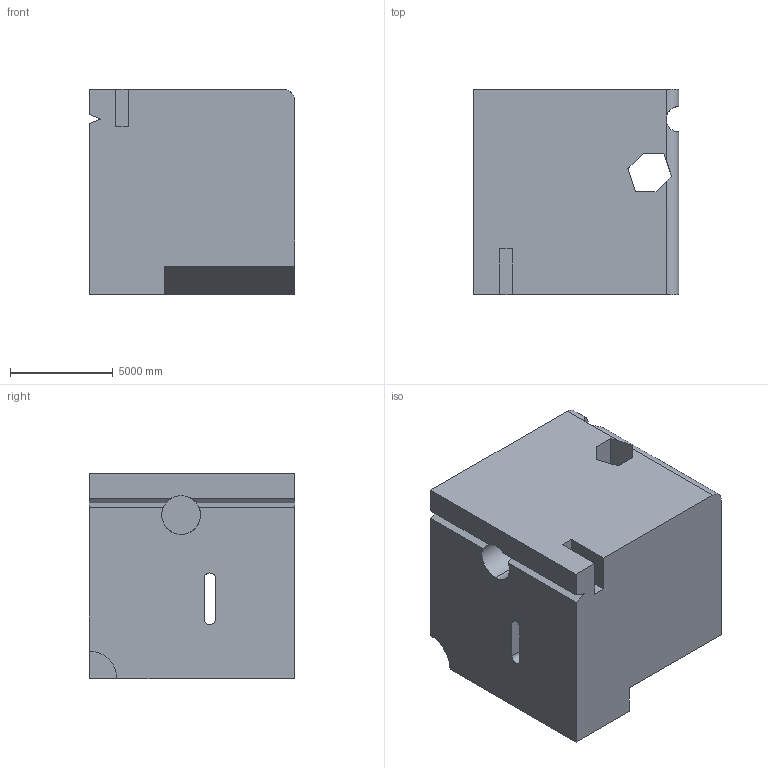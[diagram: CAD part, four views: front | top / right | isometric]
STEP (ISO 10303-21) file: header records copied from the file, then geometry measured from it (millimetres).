
FILE_DESCRIPTION (( 'STEP AP203' ), '1' );
FILE_NAME ('82.STEP', '2022-08-30T14:27:18', ( 'user' ), ( '' ), 'SwSTEP 2.0', 'SolidWorks 2021', '' );
FILE_SCHEMA (( 'CONFIG_CONTROL_DESIGN' ));
Length unit declared in the file: centimetre
Products named in the file (1): 82
Bounding box: 10000 x 10000 x 10000 mm (x, y, z)
Volume: 917694344472.7 mm3; surface area: 753337121.4 mm2
Topology: 1 solids, 1 shells, 38 faces, 111 edges, 74 vertices
Faces by surface type: plane 28, cylinder 10
Entity records: 1484 total; most frequent: CARTESIAN_POINT 390, ORIENTED_EDGE 222, DIRECTION 201, EDGE_CURVE 111, VECTOR 83, LINE 83, VERTEX_POINT 74, AXIS2_PLACEMENT_3D 59
